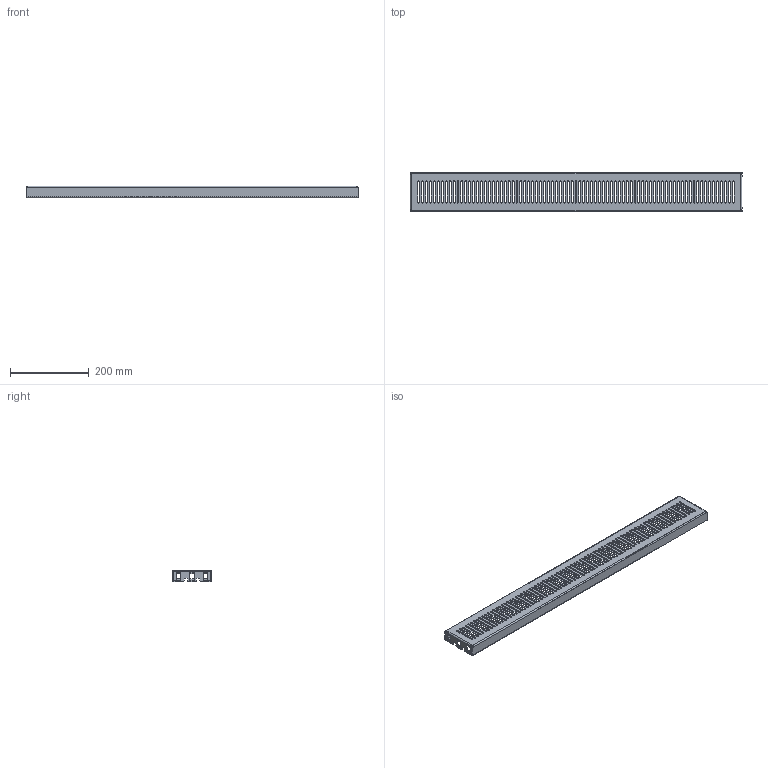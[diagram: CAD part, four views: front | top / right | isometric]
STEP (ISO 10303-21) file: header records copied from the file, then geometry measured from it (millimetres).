
FILE_DESCRIPTION (( 'STEP AP203' ), '1' );
FILE_NAME ('EUZE-T1000V.STEP', '2023-08-22T12:41:58', ( '' ), ( '' ), 'SwSTEP 2.0', 'SolidWorks 2022', '' );
FILE_SCHEMA (( 'CONFIG_CONTROL_DESIGN' ));
Length unit declared in the file: millimetre
Products named in the file (1): EUZE-T1000V
Bounding box: 844 x 99 x 30 mm (x, y, z)
Volume: 245036.2 mm3; surface area: 269681 mm2
Topology: 1 solids, 1 shells, 482 faces, 1392 edges, 912 vertices
Faces by surface type: plane 272, cylinder 202, bspline 8
Entity records: 16487 total; most frequent: CARTESIAN_POINT 3117, ORIENTED_EDGE 2784, DIRECTION 2698, EDGE_CURVE 1392, VECTOR 972, LINE 972, VERTEX_POINT 912, AXIS2_PLACEMENT_3D 863
